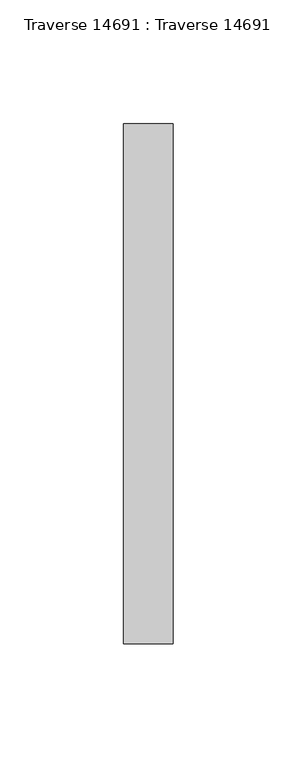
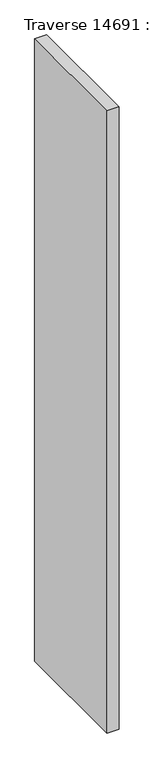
"""IFC4 building model written with IfcOpenShell, lengths in millimetres: beam geometry, Traverse 14691 : Traverse 14691."""

import ifcopenshell
import ifcopenshell.guid

model = None  # the IFC model being written
_history = None  # IfcOwnerHistory: only IFC2X3 demands one
_inside = {}  # id of a spatial element -> (the spatial element, [elements in it])
_under = {}  # id of a project, library or spatial element -> (it, [spatial elements below it])
_declared = {}  # id of a project -> (the project, [libraries it declares])
_typed = {}  # id of a type object -> (the type object, [elements of that type])
_made_of = {}  # id of a material, layer set ... -> (it, [elements and type objects made of it])


def new_model(schema):
    """Start an empty IFC model of exactly this schema.

    Asked for "IFC4X3", IfcOpenShell would pick the latest addendum, in which some entities
    have other attributes; the version numbers below select the first issue.
    IFC2X3 requires an IfcOwnerHistory on every rooted entity: one is made here for all.
    """
    global model, _history
    if schema == "IFC4X3":
        model = ifcopenshell.file(schema_version=(4, 3, 0, 0))
    else:
        model = ifcopenshell.file(schema=schema)
    _inside.clear()
    _under.clear()
    _declared.clear()
    _typed.clear()
    _made_of.clear()
    _history = None
    if model.schema == "IFC2X3":
        org = make("IfcOrganization", Name="unknown")
        user = make(
            "IfcPersonAndOrganization",
            ThePerson=make("IfcPerson", FamilyName="unknown"),
            TheOrganization=org,
        )
        app = make(
            "IfcApplication",
            ApplicationDeveloper=org,
            Version="unknown",
            ApplicationFullName="unknown",
            ApplicationIdentifier="unknown",
        )
        _history = make(
            "IfcOwnerHistory",
            OwningUser=user,
            OwningApplication=app,
            ChangeAction="ADDED",
            CreationDate=0,
        )
    return model


def make(cls, **values):
    """One entity of the class cls with the attributes given. An attribute that is None is left unset."""
    return model.create_entity(
        cls, **{name: value for name, value in values.items() if value is not None}
    )


def rooted(cls, **values):
    """An entity with a GlobalId (a new one), such as an element, a storey or a relation."""
    return make(cls, GlobalId=ifcopenshell.guid.new(), OwnerHistory=_history, **values)


def si_unit(unit_type, name, prefix=None):
    """IfcSIUnit, for example si_unit("LENGTHUNIT", "METRE", prefix="MILLI")."""
    return make("IfcSIUnit", UnitType=unit_type, Prefix=prefix, Name=name)


def assignment(units):
    """IfcUnitAssignment: the units of a project."""
    return None if units is None else make("IfcUnitAssignment", Units=units)


def point(xyz):
    """IfcCartesianPoint."""
    return None if xyz is None else make("IfcCartesianPoint", Coordinates=xyz)


def direction(xyz):
    """IfcDirection."""
    return None if xyz is None else make("IfcDirection", DirectionRatios=xyz)


def frame(location, z_axis=None, x_axis=None):
    """IfcAxis2Placement3D, a coordinate frame: its origin and axes. An axis left out is left unset."""
    return make(
        "IfcAxis2Placement3D",
        Location=point(location),
        Axis=direction(z_axis),
        RefDirection=direction(x_axis),
    )


def origin():
    """The frame at (0, 0, 0) with its axes left unset."""
    return frame((0.0, 0.0, 0.0))


def place(relative_to, where):
    """IfcLocalPlacement: puts the frame where relative to a parent placement (None: the world)."""
    return make(
        "IfcLocalPlacement", PlacementRelTo=relative_to, RelativePlacement=where
    )


def context(
    kind, dimensions, precision=None, world=None, true_north=None, identifier=None
):
    """IfcGeometricRepresentationContext, for example the 3D "Model" context."""
    return make(
        "IfcGeometricRepresentationContext",
        ContextIdentifier=identifier,
        ContextType=kind,
        CoordinateSpaceDimension=dimensions,
        Precision=precision,
        WorldCoordinateSystem=world,
        TrueNorth=true_north,
    )


def project(units=None, contexts=None):
    """IfcProject with its units and contexts."""
    return rooted(
        "IfcProject",
        Name="project",
        RepresentationContexts=contexts,
        UnitsInContext=assignment(units),
    )


def spatial(cls, under=None, at=None, **own):
    """A site, building, storey or space (cls), placed at a placement, below another one or the project."""
    s = rooted(cls, ObjectPlacement=at, **own)
    if under is not None:
        _under.setdefault(under.id(), (under, []))[1].append(s)
    return s


def polyline(points):
    """IfcPolyline through the points."""
    return make("IfcPolyline", Points=[point(p) for p in points])


def outline(outer, holes=None, kind="AREA"):
    """IfcArbitraryClosedProfileDef: a profile drawn as a closed curve; with holes, ...WithVoids."""
    if holes is None:
        return make("IfcArbitraryClosedProfileDef", ProfileType=kind, OuterCurve=outer)
    return make(
        "IfcArbitraryProfileDefWithVoids",
        ProfileType=kind,
        OuterCurve=outer,
        InnerCurves=holes,
    )


def extrude(swept, where, along, depth):
    """IfcExtrudedAreaSolid: the profile swept, set in the frame where, extruded along a direction by depth."""
    return make(
        "IfcExtrudedAreaSolid",
        SweptArea=swept,
        Position=where,
        ExtrudedDirection=direction(along),
        Depth=depth,
    )


def shape(context_of_items, identifier, shape_type, items):
    """IfcShapeRepresentation: the items that make up one representation, for example the "Body"."""
    return make(
        "IfcShapeRepresentation",
        ContextOfItems=context_of_items,
        RepresentationIdentifier=identifier,
        RepresentationType=shape_type,
        Items=items,
    )


def source(mapping_origin, context_of_items, identifier, shape_type, items):
    """IfcRepresentationMap: a shape defined once, which mapped items show again and again."""
    return make(
        "IfcRepresentationMap",
        MappingOrigin=mapping_origin,
        MappedRepresentation=shape(context_of_items, identifier, shape_type, items),
    )


def transform(
    local_origin,
    x_axis=None,
    y_axis=None,
    z_axis=None,
    scale=None,
    scale2=None,
    scale3=None,
    uniform=True,
):
    """IfcCartesianTransformationOperator3D, or its non-uniform kind. x_axis, y_axis, z_axis: its Axis1, 2, 3."""
    if uniform:
        return make(
            "IfcCartesianTransformationOperator3D",
            Axis1=direction(x_axis),
            Axis2=direction(y_axis),
            LocalOrigin=point(local_origin),
            Scale=scale,
            Axis3=direction(z_axis),
        )
    return make(
        "IfcCartesianTransformationOperator3DnonUniform",
        Axis1=direction(x_axis),
        Axis2=direction(y_axis),
        LocalOrigin=point(local_origin),
        Scale=scale,
        Axis3=direction(z_axis),
        Scale2=scale2,
        Scale3=scale3,
    )


def mapped(mapping_source, mapping_target):
    """IfcMappedItem: shows the shape of a source again, moved by a transform."""
    return make(
        "IfcMappedItem", MappingSource=mapping_source, MappingTarget=mapping_target
    )


def made_of(thing, what):
    """Note that an element or type object is made of a material, layer set ...; save() writes the relation."""
    if what is not None:
        _made_of.setdefault(what.id(), (what, []))[1].append(thing)
    return thing


def element(
    cls,
    number,
    at=None,
    inside=None,
    cuts=None,
    type_object=None,
    material=None,
    context=None,
    identifier="Body",
    shape_type=None,
    held_by="IfcProductDefinitionShape",
    body=None,
    shapes=None,
    **own,
):
    """One element of the class cls, such as IfcWall. Its Tag is "e" and its number.

    at: its placement. inside: the storey or other place that contains it. cuts: it is an
    opening in that element (IfcRelVoidsElement). A single representation is given by context,
    identifier, shape_type and body (its items); several are given by shapes. held_by: the class
    of the entity that holds the representations. save() writes the other relations.
    """
    e = rooted(cls, Tag="e%d" % number, ObjectPlacement=at, **own)
    if body is not None:
        shapes = [shape(context, identifier, shape_type, body)]
    if shapes is not None:
        e.Representation = make(held_by, Representations=shapes)
    if inside is not None:
        _inside.setdefault(inside.id(), (inside, []))[1].append(e)
    if cuts is not None:
        rooted(
            "IfcRelVoidsElement", RelatingBuildingElement=cuts, RelatedOpeningElement=e
        )
    if type_object is not None:
        _typed.setdefault(type_object.id(), (type_object, []))[1].append(e)
    return made_of(e, material)


def aggregate(whole, parts):
    """IfcRelAggregates: a whole, such as a stair, and the parts it consists of."""
    return rooted("IfcRelAggregates", RelatingObject=whole, RelatedObjects=parts)


def save(model, path):
    """Write the relations noted so far, then the file.

    IfcRelAggregates (storeys below a building ...), IfcRelContainedInSpatialStructure (elements
    in a storey), IfcRelDefinesByType, IfcRelAssociatesMaterial and IfcRelDeclares: one each for
    every whole, place, type object, material and project.
    """
    for whole, parts in _under.values():
        aggregate(whole, parts)
    for where, things in _inside.values():
        rooted(
            "IfcRelContainedInSpatialStructure",
            RelatedElements=things,
            RelatingStructure=where,
        )
    for kind, things in _typed.values():
        rooted("IfcRelDefinesByType", RelatedObjects=things, RelatingType=kind)
    for what, things in _made_of.values():
        rooted("IfcRelAssociatesMaterial", RelatedObjects=things, RelatingMaterial=what)
    for by, libraries in _declared.values():
        rooted("IfcRelDeclares", RelatingContext=by, RelatedDefinitions=libraries)
    model.write(path)


def traverse_14691_traverse_14691_c724f752(model_context):
    return source(origin(), model_context, "Body", "SweptSolid", [
        extrude(outline(polyline([(14839.9999999, -15.0), (14839.9999999, -225.0), (14819.9999999, -225.0), (14819.9999999, -15.0), (14839.9999999, -15.0)])), frame((0.0, 0.0, 6413.8907239), z_axis=(0.0, 0.0, 1.0), x_axis=(1.0, 0.0, 0.0)), (0.0, 0.0, 1.0), 1100.4092761),
    ])


if __name__ == "__main__":
    model = new_model("IFC4")
    model_context = context("Model", 3, world=origin())
    ifc_project = project(units=[si_unit("LENGTHUNIT", "METRE", prefix="MILLI")], contexts=[model_context])
    site = spatial("IfcSite", under=ifc_project)
    building = spatial("IfcBuilding", under=site)
    placement = place(None, origin())
    traverse_14691_traverse_14691_shape = traverse_14691_traverse_14691_c724f752(model_context)
    element("IfcBeam", 1, ObjectType="Traverse 14691 : Traverse 14691", at=placement, inside=building, context=model_context, shape_type="MappedRepresentation", body=[
        mapped(traverse_14691_traverse_14691_shape, transform((0.0, 0.0, 0.0), x_axis=(1.0, 0.0, 0.0), y_axis=(0.0, 1.0, 0.0), z_axis=(0.0, 0.0, 1.0))),
    ])
    save(model, "model.ifc")
